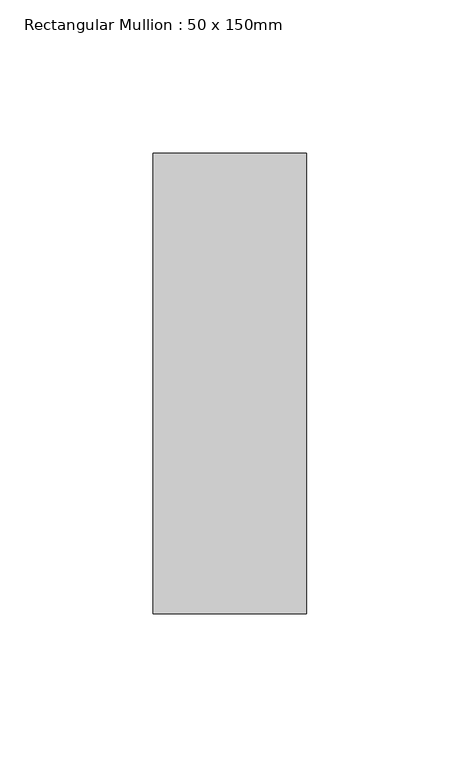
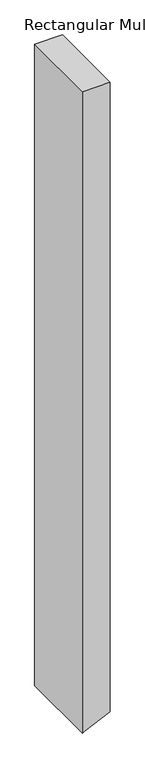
"""IFC4 building model written with IfcOpenShell, lengths in millimetres: member geometry, Rectangular Mullion : 50 x 150mm."""

import ifcopenshell
import ifcopenshell.guid

model = None  # the IFC model being written
_history = None  # IfcOwnerHistory: only IFC2X3 demands one
_inside = {}  # id of a spatial element -> (the spatial element, [elements in it])
_under = {}  # id of a project, library or spatial element -> (it, [spatial elements below it])
_declared = {}  # id of a project -> (the project, [libraries it declares])
_typed = {}  # id of a type object -> (the type object, [elements of that type])
_made_of = {}  # id of a material, layer set ... -> (it, [elements and type objects made of it])


def new_model(schema):
    """Start an empty IFC model of exactly this schema.

    Asked for "IFC4X3", IfcOpenShell would pick the latest addendum, in which some entities
    have other attributes; the version numbers below select the first issue.
    IFC2X3 requires an IfcOwnerHistory on every rooted entity: one is made here for all.
    """
    global model, _history
    if schema == "IFC4X3":
        model = ifcopenshell.file(schema_version=(4, 3, 0, 0))
    else:
        model = ifcopenshell.file(schema=schema)
    _inside.clear()
    _under.clear()
    _declared.clear()
    _typed.clear()
    _made_of.clear()
    _history = None
    if model.schema == "IFC2X3":
        org = make("IfcOrganization", Name="unknown")
        user = make(
            "IfcPersonAndOrganization",
            ThePerson=make("IfcPerson", FamilyName="unknown"),
            TheOrganization=org,
        )
        app = make(
            "IfcApplication",
            ApplicationDeveloper=org,
            Version="unknown",
            ApplicationFullName="unknown",
            ApplicationIdentifier="unknown",
        )
        _history = make(
            "IfcOwnerHistory",
            OwningUser=user,
            OwningApplication=app,
            ChangeAction="ADDED",
            CreationDate=0,
        )
    return model


def make(cls, **values):
    """One entity of the class cls with the attributes given. An attribute that is None is left unset."""
    return model.create_entity(
        cls, **{name: value for name, value in values.items() if value is not None}
    )


def rooted(cls, **values):
    """An entity with a GlobalId (a new one), such as an element, a storey or a relation."""
    return make(cls, GlobalId=ifcopenshell.guid.new(), OwnerHistory=_history, **values)


def si_unit(unit_type, name, prefix=None):
    """IfcSIUnit, for example si_unit("LENGTHUNIT", "METRE", prefix="MILLI")."""
    return make("IfcSIUnit", UnitType=unit_type, Prefix=prefix, Name=name)


def assignment(units):
    """IfcUnitAssignment: the units of a project."""
    return None if units is None else make("IfcUnitAssignment", Units=units)


def point(xyz):
    """IfcCartesianPoint."""
    return None if xyz is None else make("IfcCartesianPoint", Coordinates=xyz)


def direction(xyz):
    """IfcDirection."""
    return None if xyz is None else make("IfcDirection", DirectionRatios=xyz)


def frame(location, z_axis=None, x_axis=None):
    """IfcAxis2Placement3D, a coordinate frame: its origin and axes. An axis left out is left unset."""
    return make(
        "IfcAxis2Placement3D",
        Location=point(location),
        Axis=direction(z_axis),
        RefDirection=direction(x_axis),
    )


def origin():
    """The frame at (0, 0, 0) with its axes left unset."""
    return frame((0.0, 0.0, 0.0))


def place(relative_to, where):
    """IfcLocalPlacement: puts the frame where relative to a parent placement (None: the world)."""
    return make(
        "IfcLocalPlacement", PlacementRelTo=relative_to, RelativePlacement=where
    )


def context(
    kind, dimensions, precision=None, world=None, true_north=None, identifier=None
):
    """IfcGeometricRepresentationContext, for example the 3D "Model" context."""
    return make(
        "IfcGeometricRepresentationContext",
        ContextIdentifier=identifier,
        ContextType=kind,
        CoordinateSpaceDimension=dimensions,
        Precision=precision,
        WorldCoordinateSystem=world,
        TrueNorth=true_north,
    )


def project(units=None, contexts=None):
    """IfcProject with its units and contexts."""
    return rooted(
        "IfcProject",
        Name="project",
        RepresentationContexts=contexts,
        UnitsInContext=assignment(units),
    )


def spatial(cls, under=None, at=None, **own):
    """A site, building, storey or space (cls), placed at a placement, below another one or the project."""
    s = rooted(cls, ObjectPlacement=at, **own)
    if under is not None:
        _under.setdefault(under.id(), (under, []))[1].append(s)
    return s


def circle_curve(where, radius):
    """IfcCircle in the frame where."""
    return make("IfcCircle", Position=where, Radius=radius)


def shape(context_of_items, identifier, shape_type, items):
    """IfcShapeRepresentation: the items that make up one representation, for example the "Body"."""
    return make(
        "IfcShapeRepresentation",
        ContextOfItems=context_of_items,
        RepresentationIdentifier=identifier,
        RepresentationType=shape_type,
        Items=items,
    )


def source(mapping_origin, context_of_items, identifier, shape_type, items):
    """IfcRepresentationMap: a shape defined once, which mapped items show again and again."""
    return make(
        "IfcRepresentationMap",
        MappingOrigin=mapping_origin,
        MappedRepresentation=shape(context_of_items, identifier, shape_type, items),
    )


def transform(
    local_origin,
    x_axis=None,
    y_axis=None,
    z_axis=None,
    scale=None,
    scale2=None,
    scale3=None,
    uniform=True,
):
    """IfcCartesianTransformationOperator3D, or its non-uniform kind. x_axis, y_axis, z_axis: its Axis1, 2, 3."""
    if uniform:
        return make(
            "IfcCartesianTransformationOperator3D",
            Axis1=direction(x_axis),
            Axis2=direction(y_axis),
            LocalOrigin=point(local_origin),
            Scale=scale,
            Axis3=direction(z_axis),
        )
    return make(
        "IfcCartesianTransformationOperator3DnonUniform",
        Axis1=direction(x_axis),
        Axis2=direction(y_axis),
        LocalOrigin=point(local_origin),
        Scale=scale,
        Axis3=direction(z_axis),
        Scale2=scale2,
        Scale3=scale3,
    )


def mapped(mapping_source, mapping_target):
    """IfcMappedItem: shows the shape of a source again, moved by a transform."""
    return make(
        "IfcMappedItem", MappingSource=mapping_source, MappingTarget=mapping_target
    )


def made_of(thing, what):
    """Note that an element or type object is made of a material, layer set ...; save() writes the relation."""
    if what is not None:
        _made_of.setdefault(what.id(), (what, []))[1].append(thing)
    return thing


def element(
    cls,
    number,
    at=None,
    inside=None,
    cuts=None,
    type_object=None,
    material=None,
    context=None,
    identifier="Body",
    shape_type=None,
    held_by="IfcProductDefinitionShape",
    body=None,
    shapes=None,
    **own,
):
    """One element of the class cls, such as IfcWall. Its Tag is "e" and its number.

    at: its placement. inside: the storey or other place that contains it. cuts: it is an
    opening in that element (IfcRelVoidsElement). A single representation is given by context,
    identifier, shape_type and body (its items); several are given by shapes. held_by: the class
    of the entity that holds the representations. save() writes the other relations.
    """
    e = rooted(cls, Tag="e%d" % number, ObjectPlacement=at, **own)
    if body is not None:
        shapes = [shape(context, identifier, shape_type, body)]
    if shapes is not None:
        e.Representation = make(held_by, Representations=shapes)
    if inside is not None:
        _inside.setdefault(inside.id(), (inside, []))[1].append(e)
    if cuts is not None:
        rooted(
            "IfcRelVoidsElement", RelatingBuildingElement=cuts, RelatedOpeningElement=e
        )
    if type_object is not None:
        _typed.setdefault(type_object.id(), (type_object, []))[1].append(e)
    return made_of(e, material)


def aggregate(whole, parts):
    """IfcRelAggregates: a whole, such as a stair, and the parts it consists of."""
    return rooted("IfcRelAggregates", RelatingObject=whole, RelatedObjects=parts)


def save(model, path):
    """Write the relations noted so far, then the file.

    IfcRelAggregates (storeys below a building ...), IfcRelContainedInSpatialStructure (elements
    in a storey), IfcRelDefinesByType, IfcRelAssociatesMaterial and IfcRelDeclares: one each for
    every whole, place, type object, material and project.
    """
    for whole, parts in _under.values():
        aggregate(whole, parts)
    for where, things in _inside.values():
        rooted(
            "IfcRelContainedInSpatialStructure",
            RelatedElements=things,
            RelatingStructure=where,
        )
    for kind, things in _typed.values():
        rooted("IfcRelDefinesByType", RelatedObjects=things, RelatingType=kind)
    for what, things in _made_of.values():
        rooted("IfcRelAssociatesMaterial", RelatedObjects=things, RelatingMaterial=what)
    for by, libraries in _declared.values():
        rooted("IfcRelDeclares", RelatingContext=by, RelatedDefinitions=libraries)
    model.write(path)


def plane_surface(at):
    """IfcPlane: the flat surface through the origin of the frame at, square to its z axis."""
    return make("IfcPlane", Position=at)


def cylinder_surface(at, radius):
    """IfcCylindricalSurface: all points at the distance radius from the z axis of the frame at."""
    return make("IfcCylindricalSurface", Position=at, Radius=radius)


def advanced_brep(points, edges, surfaces, faces):
    """IfcAdvancedBrep: a solid bounded by faces that lie on surfaces and meet in shared edges.

    An edge is (start, end): straight between two places in points (the first is 0);
    or (start, end, curve); or (start, end, curve, False) where it runs against its curve.
    A face is (place in surfaces, loops), or (place, loops, False) where it looks against
    its surface's normal. A loop lists edges by number (the first is 1), with a minus sign
    where the edge is run from its end to its start. The first loop is the outer one.
    """
    corners = [point(p) for p in points]
    vertices = [make("IfcVertexPoint", VertexGeometry=c) for c in corners]
    made = []
    for start, end, *more in edges:
        made.append(
            make(
                "IfcEdgeCurve",
                EdgeStart=vertices[start],
                EdgeEnd=vertices[end],
                EdgeGeometry=more[0] if more else make("IfcPolyline", Points=[corners[start], corners[end]]),
                SameSense=more[1] if len(more) > 1 else True,
            )
        )
    hull = []
    for where, loops, *sense in faces:
        bounds = []
        for j, loop in enumerate(loops):
            ring = [make("IfcOrientedEdge", EdgeElement=made[abs(k) - 1], Orientation=k > 0) for k in loop]
            bounds.append(
                make(
                    "IfcFaceOuterBound" if j == 0 else "IfcFaceBound",
                    Bound=make("IfcEdgeLoop", EdgeList=ring),
                    Orientation=True,
                )
            )
        hull.append(make("IfcAdvancedFace", Bounds=bounds, FaceSurface=surfaces[where], SameSense=sense[0] if sense else True))
    return make("IfcAdvancedBrep", Outer=make("IfcClosedShell", CfsFaces=hull))


def rectangular_mullion_50_x_150mm_248484f7(model_context):
    return source(origin(), model_context, "Body", "AdvancedBrep", [
        advanced_brep(
        [(25.0, 75.0, 0.0), (-25.0, 75.0, 0.0), (-25.0, -75.0, 0.0), (25.0, -75.0, 0.0), (25.0, 75.0, -1205.0482854), (-20.9242215, 75.0, -1226.7429189), (-25.0, 75.0, -1228.6167734), (-25.0, -75.0, -1228.6167734), (-20.9242215, -75.0, -1226.7429189), (25.0, -75.0, -1205.0482854)],
        [
            (0, 1),
            (1, 2),
            (2, 3),
            (3, 0),
            (0, 4),
            (4, 5, circle_curve(frame((-1134.1383308, 75.0, 1189.2156059), z_axis=(0.0, 1.0, 0.0), x_axis=(0.9030264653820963, 0.0, -0.42958491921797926)), 2660.0942185)),
            (5, 6, circle_curve(frame((-1134.1383308, 75.0, 1189.2156059), z_axis=(0.0, 1.0, 0.0), x_axis=(0.41848667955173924, 0.0, -0.9082229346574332)), 2660.0942185)),
            (6, 1),
            (6, 7),
            (7, 2),
            (7, 8, circle_curve(frame((-1134.1383308, -75.0, 1189.2156059), z_axis=(0.0, -1.0, 0.0), x_axis=(0.41848667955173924, 0.0, -0.9082229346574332)), 2660.0942185)),
            (8, 9, circle_curve(frame((-1134.1383308, -75.0, 1189.2156059), z_axis=(0.0, -1.0, 0.0), x_axis=(0.9030264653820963, 0.0, -0.42958491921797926)), 2660.0942185)),
            (9, 3),
            (9, 4),
            (8, 5),
        ],
        [
            plane_surface(frame((0.0, -79.0569415, 0.0), z_axis=(0.0, 0.0, 1.0), x_axis=(-1.0, 0.0, 0.0))),
            plane_surface(frame((25.0, 75.0, 0.0), z_axis=(0.0, 1.0, 0.0), x_axis=(0.0, 0.0, -1.0))),
            plane_surface(frame((-25.0, 75.0, 0.0), z_axis=(-1.0, 0.0, 0.0), x_axis=(0.0, 0.0, -1.0))),
            plane_surface(frame((-25.0, -75.0, 0.0), z_axis=(0.0, -1.0, 0.0), x_axis=(0.0, 0.0, -1.0))),
            plane_surface(frame((25.0, -75.0, 0.0), z_axis=(1.0, 0.0, 0.0), x_axis=(0.0, 0.0, -1.0))),
            cylinder_surface(frame((-1134.1383308, 0.0, 1189.2156059), z_axis=(0.0, 1.0, 0.0), x_axis=(0.9030264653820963, 0.0, -0.42958491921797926)), 2660.0942185),
            cylinder_surface(frame((-1134.1383308, 0.0, 1189.2156059), z_axis=(0.0, 1.0000000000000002, 0.0), x_axis=(0.41848667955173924, 0.0, -0.9082229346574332)), 2660.0942185),
        ],
        [
            (0, [[1, 2, 3, 4]]),
            (1, [[-1, 5, 6, 7, 8]]),
            (2, [[-2, -8, 9, 10]]),
            (3, [[-3, -10, 11, 12, 13]]),
            (4, [[-4, -13, 14, -5]]),
            (5, [[-14, -12, 15, -6]]),
            (6, [[-11, -9, -7, -15]]),
        ],
    ),
    ])


if __name__ == "__main__":
    model = new_model("IFC4")
    model_context = context("Model", 3, world=origin())
    ifc_project = project(units=[si_unit("LENGTHUNIT", "METRE", prefix="MILLI")], contexts=[model_context])
    site = spatial("IfcSite", under=ifc_project)
    building = spatial("IfcBuilding", under=site)
    placement = place(None, origin())
    rectangular_mullion_50_x_150mm_shape = rectangular_mullion_50_x_150mm_248484f7(model_context)
    element("IfcMember", 1, ObjectType="Rectangular Mullion : 50 x 150mm", at=placement, inside=building, context=model_context, shape_type="MappedRepresentation", body=[
        mapped(rectangular_mullion_50_x_150mm_shape, transform((0.0, 0.0, 0.0), x_axis=(1.0, 0.0, 0.0), y_axis=(0.0, 1.0, 0.0), z_axis=(0.0, 0.0, 1.0))),
    ])
    save(model, "model.ifc")
